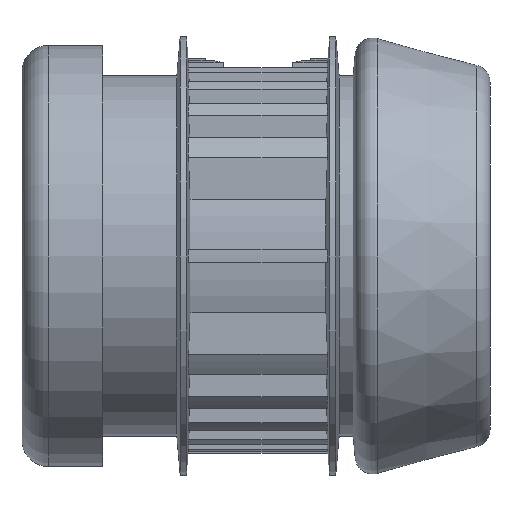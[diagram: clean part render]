
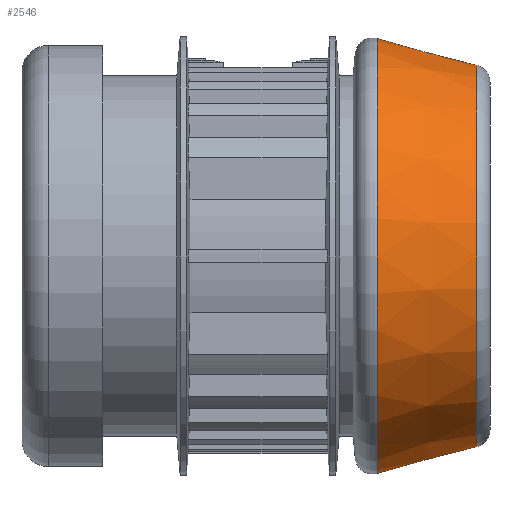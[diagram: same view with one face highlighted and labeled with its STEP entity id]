
A CAD part, front view. The second image highlights one B-rep face of the part: STEP entity #2546.
In plain terms, the highlighted conical face has half-angle 15 degrees and reference radius 46.514 mm.
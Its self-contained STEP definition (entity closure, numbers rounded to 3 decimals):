
#21=CONICAL_SURFACE($,#2800,46.514,15.);
#42=FACE_BOUND($,#619,.T.);
#172=CIRCLE($,#2799,49.564);
#173=CIRCLE($,#2801,43.464);
#466=FACE_OUTER_BOUND($,#618,.T.);
#618=EDGE_LOOP($,(#2182));
#619=EDGE_LOOP($,(#2183));
#1136=VERTEX_POINT($,#4433);
#1137=VERTEX_POINT($,#4436);
#1491=EDGE_CURVE($,#1136,#1136,#172,.T.);
#1492=EDGE_CURVE($,#1137,#1137,#173,.T.);
#2182=ORIENTED_EDGE($,*,*,#1492,.F.);
#2183=ORIENTED_EDGE($,*,*,#1491,.T.);
#2546=ADVANCED_FACE($,(#466,#42),#21,.T.);
#2799=AXIS2_PLACEMENT_3D($,#4434,#3420,#3421);
#2800=AXIS2_PLACEMENT_3D($,#4435,#3422,#3423);
#2801=AXIS2_PLACEMENT_3D($,#4437,#3424,#3425);
#3420=DIRECTION('center_axis',(1.,0.,0.));
#3421=DIRECTION('ref_axis',(0.,1.,0.));
#3422=DIRECTION('center_axis',(-1.,0.,0.));
#3423=DIRECTION('ref_axis',(0.,1.,0.));
#3424=DIRECTION('center_axis',(1.,0.,0.));
#3425=DIRECTION('ref_axis',(0.,1.,0.));
#4433=CARTESIAN_POINT('',(80.97,49.564,0.));
#4434=CARTESIAN_POINT('Origin',(80.97,0.,0.));
#4435=CARTESIAN_POINT('Origin',(92.353,0.,0.));
#4436=CARTESIAN_POINT('',(103.735,43.464,0.));
#4437=CARTESIAN_POINT('Origin',(103.735,0.,0.));
